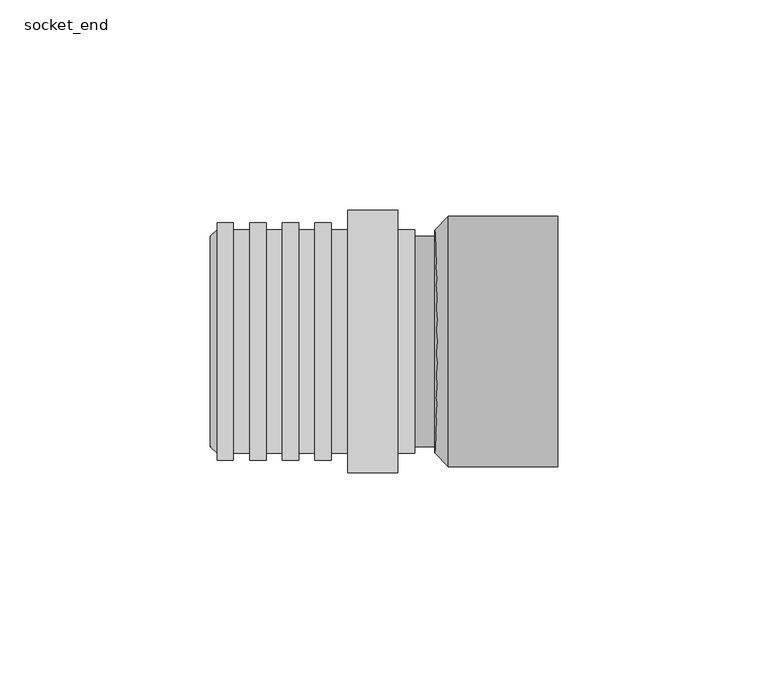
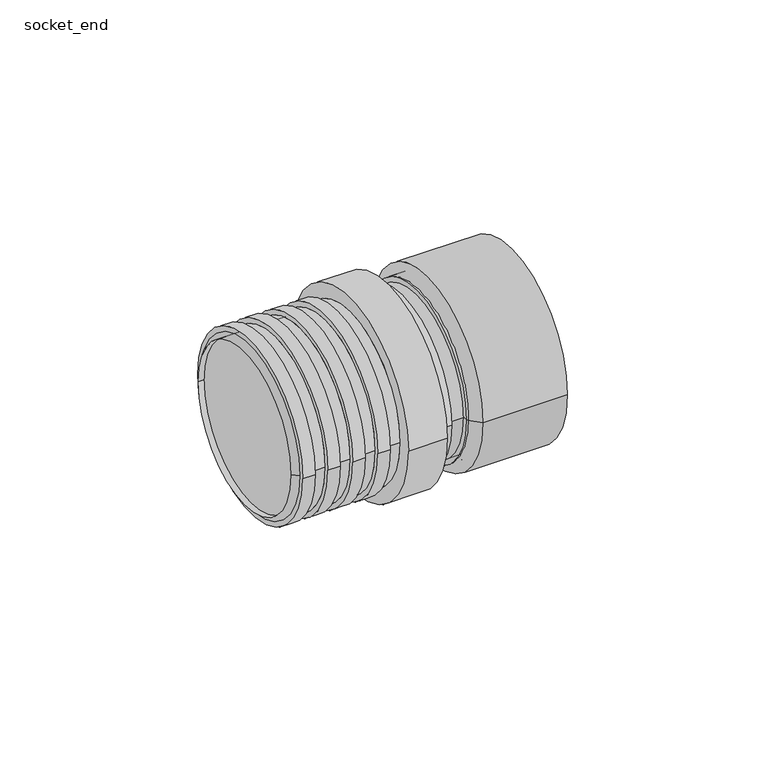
"""IFC4 building model written with IfcOpenShell, lengths in millimetres: pipe fitting geometry, Wavin SiTech+ S Siphon gerade (multiport) : socket_end."""

from ifc_helpers import new_model, si_unit, point, frame, origin, origin_2d, place, context, project, spatial, polyline, circle_curve, trimmed, segment, composite_curve, outline, extrude, source, transform, mapped, element, save
from ifc_brep_helpers import plane_surface, cylinder_surface, revolved_surface, advanced_brep


def socket_end_08c51249(model_context):
    return source(origin(), model_context, "Body", "SolidModel", [
        advanced_brep(
        [(27.5, -26.5, 0.0), (27.5, 26.5, 0.0), (27.5, 0.0, 0.0), (24.25, -26.5, 0.0), (24.25, 26.5, 0.0), (24.25, 0.0, 0.0)],
        [
            (0, 1, circle_curve(frame((27.5, 0.0, 0.0), z_axis=(1.0, 0.0, 0.0), x_axis=(0.0, 1.0, 0.0)), 26.5)),
            (1, 2),
            (2, 0),
            (1, 0, circle_curve(frame((27.5, 0.0, 0.0), z_axis=(1.0, 0.0, 0.0), x_axis=(0.0, 1.0, 0.0)), 26.5)),
            (3, 4, circle_curve(frame((24.25, 0.0, 0.0), z_axis=(1.0, 0.0, 0.0), x_axis=(0.0, 1.0, 0.0)), 26.5)),
            (4, 1),
            (0, 3),
            (4, 3, circle_curve(frame((24.25, 0.0, 0.0), z_axis=(1.0, 0.0, 0.0), x_axis=(0.0, 1.0, 0.0)), 26.5)),
            (5, 4),
            (3, 5),
        ],
        [
            plane_surface(frame((27.5, 0.0, 0.0), z_axis=(1.0, 0.0, 0.0), x_axis=(0.0, 1.0, 0.0))),
            cylinder_surface(frame((2027.5, 0.0, 0.0), z_axis=(-1.0, 0.0, 0.0), x_axis=(0.0, 1.0, 0.0)), 26.5),
            plane_surface(frame((24.25, 0.0, 0.0), z_axis=(-1.0, 0.0, 0.0), x_axis=(0.0, 1.0, 0.0))),
        ],
        [
            (0, [[1, 2, 3]]),
            (0, [[4, -3, -2]]),
            (1, [[5, 6, -1, 7]]),
            (1, [[8, -7, -4, -6]]),
            (2, [[9, -5, 10]]),
            (2, [[-10, -8, -9]]),
        ],
    ),
        advanced_brep(
        [(53.5, -29.75, 0.0), (53.5, 29.75, 0.0), (53.5, 26.5, 0.0), (53.5, -26.5, 0.0), (27.5, -29.75, 0.0), (27.5, 29.75, 0.0), (24.25, 26.5, 0.0), (24.25, -26.5, 0.0)],
        [
            (0, 1, circle_curve(frame((53.5, 0.0, 0.0), z_axis=(1.0, 0.0, 0.0), x_axis=(0.0, 1.0, 0.0)), 29.75)),
            (1, 2),
            (2, 3, circle_curve(frame((53.5, 0.0, 0.0), z_axis=(-1.0, 0.0, 0.0), x_axis=(0.0, 1.0, 0.0)), 26.5)),
            (3, 0),
            (1, 0, circle_curve(frame((53.5, 0.0, 0.0), z_axis=(1.0, 0.0, 0.0), x_axis=(0.0, 1.0, 0.0)), 29.75)),
            (3, 2, circle_curve(frame((53.5, 0.0, 0.0), z_axis=(-1.0, 0.0, 0.0), x_axis=(0.0, 1.0, 0.0)), 26.5)),
            (4, 5, circle_curve(frame((27.5, 0.0, 0.0), z_axis=(1.0, 0.0, 0.0), x_axis=(0.0, 1.0, 0.0)), 29.75)),
            (5, 1),
            (0, 4),
            (5, 4, circle_curve(frame((27.5, 0.0, 0.0), z_axis=(1.0, 0.0, 0.0), x_axis=(0.0, 1.0, 0.0)), 29.75)),
            (2, 6),
            (6, 7, circle_curve(frame((24.25, 0.0, 0.0), z_axis=(-1.0, 0.0, 0.0), x_axis=(0.0, 1.0, 0.0)), 26.5)),
            (7, 3),
            (7, 6, circle_curve(frame((24.25, 0.0, 0.0), z_axis=(-1.0, 0.0, 0.0), x_axis=(0.0, 1.0, 0.0)), 26.5)),
            (6, 5),
            (4, 7),
        ],
        [
            plane_surface(frame((53.5, 0.0, 0.0), z_axis=(1.0, 0.0, 0.0), x_axis=(0.0, 1.0, 0.0))),
            cylinder_surface(frame((2027.5, 0.0, 0.0), z_axis=(-1.0, 0.0, 0.0), x_axis=(0.0, 1.0, 0.0)), 29.75),
            revolved_surface(polyline([(24.25, 26.5, 0.0), (53.5, 26.5, 0.0)]), (2027.5, 0.0, 0.0), (-1.0, 0.0, 0.0)),
            revolved_surface(polyline([(27.5, 29.75, 0.0), (24.25, 26.5, 0.0)]), (2027.5, 0.0, 0.0), (-1.0, 0.0, 0.0)),
        ],
        [
            (0, [[1, 2, 3, 4]]),
            (0, [[5, -4, 6, -2]]),
            (1, [[7, 8, -1, 9]]),
            (1, [[10, -9, -5, -8]]),
            (2, [[-3, 11, 12, 13]]),
            (2, [[-6, -13, 14, -11]]),
            (3, [[-12, 15, -7, 16]]),
            (3, [[-14, -16, -10, -15]]),
        ],
    ),
        advanced_brep(
        [(-29.1568485, 25.0, 0.0), (-29.1568485, -25.0, 0.0), (19.5, -25.0, 0.0), (19.5, 25.0, 0.0), (-27.5, 26.6, 0.0), (-27.5, -26.6, 0.0), (-23.625, 28.2, 0.0), (-23.625, -28.2, 0.0), (-27.5, -28.2, 0.0), (-27.5, 28.2, 0.0), (-19.75, 26.6, 0.0), (-19.75, -26.6, 0.0), (-23.625, -26.6, 0.0), (-23.625, 26.6, 0.0), (-15.875, 28.2, 0.0), (-15.875, -28.2, 0.0), (-19.75, -28.2, 0.0), (-19.75, 28.2, 0.0), (-12.0, 26.6, 0.0), (-12.0, -26.6, 0.0), (-15.875, -26.6, 0.0), (-15.875, 26.6, 0.0), (-8.125, 28.2, 0.0), (-8.125, -28.2, 0.0), (-12.0, -28.2, 0.0), (-12.0, 28.2, 0.0), (-4.25, 26.6, 0.0), (-4.25, -26.6, 0.0), (-8.125, -26.6, 0.0), (-8.125, 26.6, 0.0), (-0.375, 28.2, 0.0), (-0.375, -28.2, 0.0), (-4.25, -28.2, 0.0), (-4.25, 28.2, 0.0), (3.5, 26.6, 0.0), (3.5, -26.6, 0.0), (-0.375, -26.6, 0.0), (-0.375, 26.6, 0.0), (15.5, 31.2, 0.0), (15.5, -31.2, 0.0), (3.5, -31.2, 0.0), (3.5, 31.2, 0.0), (19.5, 26.6, 0.0), (19.5, -26.6, 0.0), (15.5, -26.6, 0.0), (15.5, 26.6, 0.0)],
        [
            (0, 1, circle_curve(frame((-29.1568485, 0.0, 0.0), z_axis=(-1.0, 0.0, 0.0), x_axis=(0.0, -1.0, 0.0)), 25.0)),
            (1, 2),
            (2, 3, circle_curve(frame((19.5, 0.0, 0.0), z_axis=(1.0, 0.0, 0.0), x_axis=(0.0, -1.0, 0.0)), 25.0)),
            (3, 0),
            (4, 5, circle_curve(frame((-27.5, 0.0, 0.0), z_axis=(-1.0, 0.0, 0.0), x_axis=(0.0, -1.0, 0.0)), 26.6)),
            (5, 1),
            (0, 4),
            (6, 7, circle_curve(frame((-23.625, 0.0, 0.0), z_axis=(-1.0, 0.0, 0.0), x_axis=(0.0, -1.0, 0.0)), 28.2)),
            (7, 8),
            (8, 9, circle_curve(frame((-27.5, 0.0, 0.0), z_axis=(1.0, 0.0, 0.0), x_axis=(0.0, -1.0, 0.0)), 28.2)),
            (9, 6),
            (10, 11, circle_curve(frame((-19.75, 0.0, 0.0), z_axis=(-1.0, 0.0, 0.0), x_axis=(0.0, -1.0, 0.0)), 26.6)),
            (11, 12),
            (12, 13, circle_curve(frame((-23.625, 0.0, 0.0), z_axis=(1.0, 0.0, 0.0), x_axis=(0.0, -1.0, 0.0)), 26.6)),
            (13, 10),
            (14, 15, circle_curve(frame((-15.875, 0.0, 0.0), z_axis=(-1.0, 0.0, 0.0), x_axis=(0.0, -1.0, 0.0)), 28.2)),
            (15, 16),
            (16, 17, circle_curve(frame((-19.75, 0.0, 0.0), z_axis=(1.0, 0.0, 0.0), x_axis=(0.0, -1.0, 0.0)), 28.2)),
            (17, 14),
            (18, 19, circle_curve(frame((-12.0, 0.0, 0.0), z_axis=(-1.0, 0.0, 0.0), x_axis=(0.0, -1.0, 0.0)), 26.6)),
            (19, 20),
            (20, 21, circle_curve(frame((-15.875, 0.0, 0.0), z_axis=(1.0, 0.0, 0.0), x_axis=(0.0, -1.0, 0.0)), 26.6)),
            (21, 18),
            (22, 23, circle_curve(frame((-8.125, 0.0, 0.0), z_axis=(-1.0, 0.0, 0.0), x_axis=(0.0, -1.0, 0.0)), 28.2)),
            (23, 24),
            (24, 25, circle_curve(frame((-12.0, 0.0, 0.0), z_axis=(1.0, 0.0, 0.0), x_axis=(0.0, -1.0, 0.0)), 28.2)),
            (25, 22),
            (26, 27, circle_curve(frame((-4.25, 0.0, 0.0), z_axis=(-1.0, 0.0, 0.0), x_axis=(0.0, -1.0, 0.0)), 26.6)),
            (27, 28),
            (28, 29, circle_curve(frame((-8.125, 0.0, 0.0), z_axis=(1.0, 0.0, 0.0), x_axis=(0.0, -1.0, 0.0)), 26.6)),
            (29, 26),
            (30, 31, circle_curve(frame((-0.375, 0.0, 0.0), z_axis=(-1.0, 0.0, 0.0), x_axis=(0.0, -1.0, 0.0)), 28.2)),
            (31, 32),
            (32, 33, circle_curve(frame((-4.25, 0.0, 0.0), z_axis=(1.0, 0.0, 0.0), x_axis=(0.0, -1.0, 0.0)), 28.2)),
            (33, 30),
            (34, 35, circle_curve(frame((3.5, 0.0, 0.0), z_axis=(-1.0, 0.0, 0.0), x_axis=(0.0, -1.0, 0.0)), 26.6)),
            (35, 36),
            (36, 37, circle_curve(frame((-0.375, 0.0, 0.0), z_axis=(1.0, 0.0, 0.0), x_axis=(0.0, -1.0, 0.0)), 26.6)),
            (37, 34),
            (38, 39, circle_curve(frame((15.5, 0.0, 0.0), z_axis=(-1.0, 0.0, 0.0), x_axis=(0.0, -1.0, 0.0)), 31.2)),
            (39, 40),
            (40, 41, circle_curve(frame((3.5, 0.0, 0.0), z_axis=(1.0, 0.0, 0.0), x_axis=(0.0, -1.0, 0.0)), 31.2)),
            (41, 38),
            (42, 43, circle_curve(frame((19.5, 0.0, 0.0), z_axis=(-1.0, 0.0, 0.0), x_axis=(0.0, -1.0, 0.0)), 26.6)),
            (43, 44),
            (44, 45, circle_curve(frame((15.5, 0.0, 0.0), z_axis=(1.0, 0.0, 0.0), x_axis=(0.0, -1.0, 0.0)), 26.6)),
            (45, 42),
            (1, 0, circle_curve(frame((-29.1568485, 0.0, 0.0), z_axis=(-1.0, 0.0, 0.0), x_axis=(0.0, 1.0, 0.0)), 25.0)),
            (3, 2, circle_curve(frame((19.5, 0.0, 0.0), z_axis=(1.0, 0.0, 0.0), x_axis=(0.0, 1.0, 0.0)), 25.0)),
            (5, 4, circle_curve(frame((-27.5, 0.0, 0.0), z_axis=(-1.0, 0.0, 0.0), x_axis=(0.0, 1.0, 0.0)), 26.6)),
            (8, 9, circle_curve(frame((-27.5, 0.0, 0.0), z_axis=(-1.0, 0.0, 0.0), x_axis=(0.0, 1.0, 0.0)), 28.2)),
            (7, 6, circle_curve(frame((-23.625, 0.0, 0.0), z_axis=(-1.0, 0.0, 0.0), x_axis=(0.0, 1.0, 0.0)), 28.2)),
            (12, 13, circle_curve(frame((-23.625, 0.0, 0.0), z_axis=(-1.0, 0.0, 0.0), x_axis=(0.0, 1.0, 0.0)), 26.6)),
            (11, 10, circle_curve(frame((-19.75, 0.0, 0.0), z_axis=(-1.0, 0.0, 0.0), x_axis=(0.0, 1.0, 0.0)), 26.6)),
            (16, 17, circle_curve(frame((-19.75, 0.0, 0.0), z_axis=(-1.0, 0.0, 0.0), x_axis=(0.0, 1.0, 0.0)), 28.2)),
            (15, 14, circle_curve(frame((-15.875, 0.0, 0.0), z_axis=(-1.0, 0.0, 0.0), x_axis=(0.0, 1.0, 0.0)), 28.2)),
            (20, 21, circle_curve(frame((-15.875, 0.0, 0.0), z_axis=(-1.0, 0.0, 0.0), x_axis=(0.0, 1.0, 0.0)), 26.6)),
            (19, 18, circle_curve(frame((-12.0, 0.0, 0.0), z_axis=(-1.0, 0.0, 0.0), x_axis=(0.0, 1.0, 0.0)), 26.6)),
            (24, 25, circle_curve(frame((-12.0, 0.0, 0.0), z_axis=(-1.0, 0.0, 0.0), x_axis=(0.0, 1.0, 0.0)), 28.2)),
            (23, 22, circle_curve(frame((-8.125, 0.0, 0.0), z_axis=(-1.0, 0.0, 0.0), x_axis=(0.0, 1.0, 0.0)), 28.2)),
            (28, 29, circle_curve(frame((-8.125, 0.0, 0.0), z_axis=(-1.0, 0.0, 0.0), x_axis=(0.0, 1.0, 0.0)), 26.6)),
            (27, 26, circle_curve(frame((-4.25, 0.0, 0.0), z_axis=(-1.0, 0.0, 0.0), x_axis=(0.0, 1.0, 0.0)), 26.6)),
            (32, 33, circle_curve(frame((-4.25, 0.0, 0.0), z_axis=(-1.0, 0.0, 0.0), x_axis=(0.0, 1.0, 0.0)), 28.2)),
            (31, 30, circle_curve(frame((-0.375, 0.0, 0.0), z_axis=(-1.0, 0.0, 0.0), x_axis=(0.0, 1.0, 0.0)), 28.2)),
            (36, 37, circle_curve(frame((-0.375, 0.0, 0.0), z_axis=(-1.0, 0.0, 0.0), x_axis=(0.0, 1.0, 0.0)), 26.6)),
            (35, 34, circle_curve(frame((3.5, 0.0, 0.0), z_axis=(-1.0, 0.0, 0.0), x_axis=(0.0, 1.0, 0.0)), 26.6)),
            (40, 41, circle_curve(frame((3.5, 0.0, 0.0), z_axis=(-1.0, 0.0, 0.0), x_axis=(0.0, 1.0, 0.0)), 31.2)),
            (39, 38, circle_curve(frame((15.5, 0.0, 0.0), z_axis=(-1.0, 0.0, 0.0), x_axis=(0.0, 1.0, 0.0)), 31.2)),
            (44, 45, circle_curve(frame((15.5, 0.0, 0.0), z_axis=(-1.0, 0.0, 0.0), x_axis=(0.0, 1.0, 0.0)), 26.6)),
            (43, 42, circle_curve(frame((19.5, 0.0, 0.0), z_axis=(-1.0, 0.0, 0.0), x_axis=(0.0, 1.0, 0.0)), 26.6)),
        ],
        [
            revolved_surface(polyline([(19.5, -25.0, 0.0), (-29.1568485, -25.0, 0.0)]), (-27.5, 0.0, 0.0), (1.0, 0.0, 0.0)),
            revolved_surface(polyline([(-29.1568485, -25.0, 0.0), (-27.5, -26.6, 0.0)]), (-27.5, 0.0, 0.0), (1.0, 0.0, 0.0)),
            cylinder_surface(frame((-27.5, 0.0, 0.0), z_axis=(1.0, 0.0, 0.0), x_axis=(0.0, -1.0, 0.0)), 28.2),
            cylinder_surface(frame((-27.5, 0.0, 0.0), z_axis=(1.0, 0.0, 0.0), x_axis=(0.0, -1.0, 0.0)), 26.6),
            cylinder_surface(frame((-27.5, 0.0, 0.0), z_axis=(1.0, 0.0, 0.0), x_axis=(0.0, -1.0, 0.0)), 31.2),
            revolved_surface(polyline([(19.5, 25.0, 0.0), (-29.1568485, 25.0, 0.0)]), (-27.5, 0.0, 0.0), (1.0, 0.0, 0.0)),
            revolved_surface(polyline([(-29.1568485, 25.0, 0.0), (-27.5, 26.6, 0.0)]), (-27.5, 0.0, 0.0), (1.0, 0.0, 0.0)),
            plane_surface(frame((-27.5, 0.0, 0.0), z_axis=(-1.0, 0.0, 0.0), x_axis=(0.0, 1.0, 0.0))),
            cylinder_surface(frame((-27.5, 0.0, 0.0), z_axis=(1.0, 0.0, 0.0), x_axis=(0.0, 1.0, 0.0)), 28.2),
            plane_surface(frame((-23.625, 0.0, 0.0), z_axis=(1.0, 0.0, 0.0), x_axis=(0.0, 1.0, 0.0))),
            cylinder_surface(frame((-27.5, 0.0, 0.0), z_axis=(1.0, 0.0, 0.0), x_axis=(0.0, 1.0, 0.0)), 26.6),
            plane_surface(frame((-19.75, 0.0, 0.0), z_axis=(-1.0, 0.0, 0.0), x_axis=(0.0, 1.0, 0.0))),
            plane_surface(frame((-15.875, 0.0, 0.0), z_axis=(1.0, 0.0, 0.0), x_axis=(0.0, 1.0, 0.0))),
            plane_surface(frame((-12.0, 0.0, 0.0), z_axis=(-1.0, 0.0, 0.0), x_axis=(0.0, 1.0, 0.0))),
            plane_surface(frame((-8.125, 0.0, 0.0), z_axis=(1.0, 0.0, 0.0), x_axis=(0.0, 1.0, 0.0))),
            plane_surface(frame((-4.25, 0.0, 0.0), z_axis=(-1.0, 0.0, 0.0), x_axis=(0.0, 1.0, 0.0))),
            plane_surface(frame((-0.375, 0.0, 0.0), z_axis=(1.0, 0.0, 0.0), x_axis=(0.0, 1.0, 0.0))),
            plane_surface(frame((3.5, 0.0, 0.0), z_axis=(-1.0, 0.0, 0.0), x_axis=(0.0, 1.0, 0.0))),
            cylinder_surface(frame((-27.5, 0.0, 0.0), z_axis=(1.0, 0.0, 0.0), x_axis=(0.0, 1.0, 0.0)), 31.2),
            plane_surface(frame((15.5, 0.0, 0.0), z_axis=(1.0, 0.0, 0.0), x_axis=(0.0, 1.0, 0.0))),
            plane_surface(frame((19.5, 0.0, 0.0), z_axis=(1.0, 0.0, 0.0), x_axis=(0.0, 1.0, 0.0))),
        ],
        [
            (0, [[1, 2, 3, 4]]),
            (1, [[5, 6, -1, 7]]),
            (2, [[8, 9, 10, 11]]),
            (3, [[12, 13, 14, 15]]),
            (2, [[16, 17, 18, 19]]),
            (3, [[20, 21, 22, 23]]),
            (2, [[24, 25, 26, 27]]),
            (3, [[28, 29, 30, 31]]),
            (2, [[32, 33, 34, 35]]),
            (3, [[36, 37, 38, 39]]),
            (4, [[40, 41, 42, 43]]),
            (3, [[44, 45, 46, 47]]),
            (5, [[48, -4, 49, -2]]),
            (6, [[50, -7, -48, -6]]),
            (7, [[51, -10], [-50, -5]]),
            (8, [[52, -11, -51, -9]]),
            (9, [[-52, -8], [53, -14]]),
            (10, [[54, -15, -53, -13]]),
            (11, [[55, -18], [-54, -12]]),
            (8, [[56, -19, -55, -17]]),
            (12, [[-56, -16], [57, -22]]),
            (10, [[58, -23, -57, -21]]),
            (13, [[59, -26], [-58, -20]]),
            (8, [[60, -27, -59, -25]]),
            (14, [[-60, -24], [61, -30]]),
            (10, [[62, -31, -61, -29]]),
            (15, [[63, -34], [-62, -28]]),
            (8, [[64, -35, -63, -33]]),
            (16, [[-64, -32], [65, -38]]),
            (10, [[66, -39, -65, -37]]),
            (17, [[67, -42], [-66, -36]]),
            (18, [[68, -43, -67, -41]]),
            (19, [[-68, -40], [69, -46]]),
            (10, [[70, -47, -69, -45]]),
            (20, [[-70, -44], [-49, -3]]),
        ],
    ),
        extrude(outline(composite_curve([segment(trimmed(circle_curve(origin_2d(), 25.0), [point((-25.0, 0.0))], [point((25.0, 0.0))], False, "CARTESIAN"), True, "CONTINUOUS"), segment(trimmed(circle_curve(origin_2d(), 25.0), [point((25.0, 0.0))], [point((-25.0, 0.0))], False, "CARTESIAN"), True, "CONTINUOUS")], self_intersect=False)), frame((-27.5, 0.0, 0.0), z_axis=(1.0, 0.0, 0.0), x_axis=(0.0, 1.0, 0.0)), (0.0, 0.0, 1.0), 55.0),
    ])


if __name__ == "__main__":
    model = new_model("IFC4")
    model_context = context("Model", 3, world=origin())
    ifc_project = project(units=[si_unit("LENGTHUNIT", "METRE", prefix="MILLI")], contexts=[model_context])
    site = spatial("IfcSite", under=ifc_project)
    building = spatial("IfcBuilding", under=site)
    placement = place(None, origin())
    socket_end_shape = socket_end_08c51249(model_context)
    element("IfcPipeFitting", 1, ObjectType="Wavin SiTech+ S Siphon gerade (multiport) : socket_end", at=placement, inside=building, context=model_context, shape_type="MappedRepresentation", body=[
        mapped(socket_end_shape, transform((0.0, 0.0, 0.0), x_axis=(1.0, 0.0, 0.0), y_axis=(0.0, 1.0, 0.0), z_axis=(0.0, 0.0, 1.0))),
    ])
    save(model, "model.ifc")
